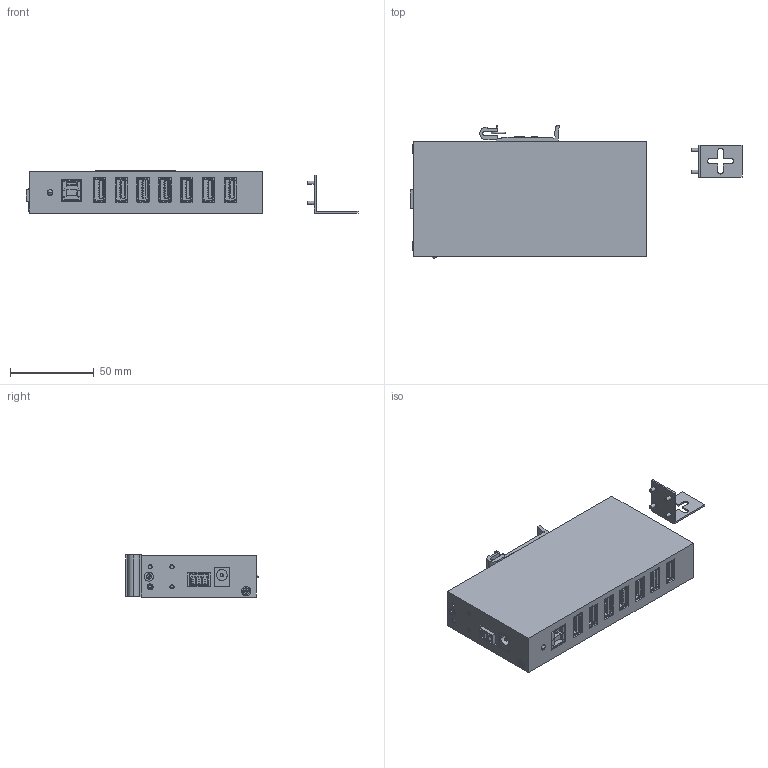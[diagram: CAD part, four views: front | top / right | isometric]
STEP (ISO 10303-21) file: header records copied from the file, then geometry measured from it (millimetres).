
FILE_DESCRIPTION(('FreeCAD Model'),'2;1');
FILE_NAME('Open CASCADE Shape Model','2025-05-20T10:39:22',(''),(''), 'Open CASCADE STEP processor 7.8','FreeCAD','Unknown');
FILE_SCHEMA(('AUTOMOTIVE_DESIGN { 1 0 10303 214 1 1 1 1 }'));
Length unit declared in the file: millimetre
Products named in the file (31): EX_11237HMS_3D; Case_down_11237HMS-2; 11237HMS-2_pcb; pj-002a; usb3_a-usb3_a-e_#001; usb3_a-usb3_a-e_#003; usb3_a-usb3_a-e_#005; usb3_a-usb3_a-e_#007; usb3_a-usb3_b; C-2350514-3; LED_SOLID003#001; LED_SOLID003#002; usb3_a-usb3_a-e_#008; usb3_a-usb3_a-e_#009; usb3_a-usb3_a-e_#010; schraube_iso_7045-m2x5-4_8-h#001; schraube_iso_7045-m2x5-4_8-h#004; schraube_iso_7045-m2x5-4_8-h#003; schraube_iso_7045-m2x5-4_8-h#002; schraube_iso_7045-m2x5-4_8-h#005; Case_up_11237HMS-2; dineniso7046-2m3x48_8h1#004; dineniso7046-2m3x48_8h1#001; dineniso7046-2m3x48_8h1#002; dineniso7046-2m3x48_8h1#003; Wallmount-Kit; M2x5-Schraube; M2x5-Schraube003; M2x5-Schraube004; M2x5-Schraube005; Rackmount_Kit
Assembly tree (30 placements, depth 2):
  EX_11237HMS_3D
    Case_down_11237HMS-2
    11237HMS-2_pcb
    pj-002a
    usb3_a-usb3_a-e_#001
    usb3_a-usb3_a-e_#003
    usb3_a-usb3_a-e_#005
    usb3_a-usb3_a-e_#007
    usb3_a-usb3_b
    C-2350514-3
    LED_SOLID003#001
    LED_SOLID003#002
    usb3_a-usb3_a-e_#008
    usb3_a-usb3_a-e_#009
    usb3_a-usb3_a-e_#010
    schraube_iso_7045-m2x5-4_8-h#001
    schraube_iso_7045-m2x5-4_8-h#004
    schraube_iso_7045-m2x5-4_8-h#003
    schraube_iso_7045-m2x5-4_8-h#002
    schraube_iso_7045-m2x5-4_8-h#005
    Case_up_11237HMS-2
    dineniso7046-2m3x48_8h1#004
    dineniso7046-2m3x48_8h1#001
    dineniso7046-2m3x48_8h1#002
    dineniso7046-2m3x48_8h1#003
    Wallmount-Kit
    M2x5-Schraube
    M2x5-Schraube003
    M2x5-Schraube004
    M2x5-Schraube005
    Rackmount_Kit
Bounding box: 198 x 78.92 x 25.15 mm (x, y, z)
Volume: 58547.9 mm3; surface area: 100676.7 mm2
Topology: 31 solids, 34 shells, 4844 faces, 13664 edges, 9047 vertices
Faces by surface type: plane 3791, cylinder 802, cone 165, torus 74, sphere 12
Full cylindrical faces by diameter (mm): 1 x2, 2 x4, 2.459 x2, 2.5 x22, 2.6 x3, 2.7 x2, 3 x11, 3.5 x1, 3.6 x4, 5.5 x3, 6 x5
Entity records: 190850 total; most frequent: CARTESIAN_POINT 29994, ORIENTED_EDGE 27300, DIRECTION 25263, EDGE_CURVE 13650, LINE 11013, VECTOR 11013, VERTEX_POINT 9047, AXIS2_PLACEMENT_3D 7125
